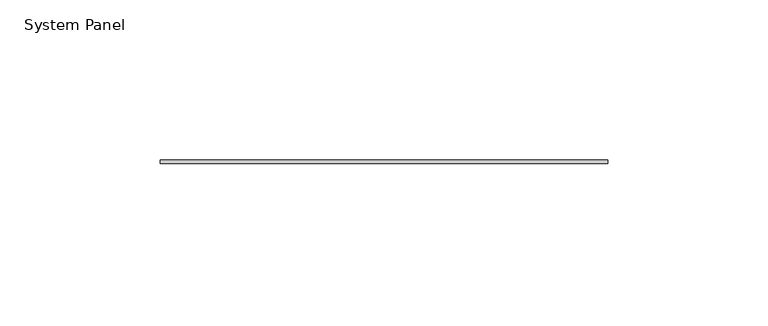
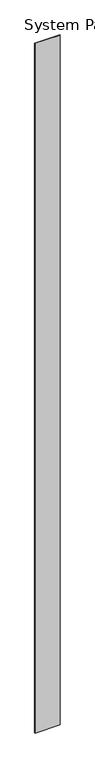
"""IFC4 building model written with IfcOpenShell, lengths in millimetres: plate geometry, System Panel : Stratco_Hiland_Tray."""

from ifc_helpers import new_model, si_unit, origin, origin_with_axes, place, context, project, spatial, polyline, outline, extrude, source, transform, mapped, element, save


def system_panel_6d3ecb9d(model_context):
    return source(origin(), model_context, "Body", "SweptSolid", [
        extrude(outline(polyline([(69.7485582, 2.5), (-69.7485582, 2.5), (-69.7485582, 3.5), (69.7485582, 3.5), (69.7485582, 2.5)])), origin_with_axes(), (0.0, 0.0, 1.0), 4000.0),
    ])


if __name__ == "__main__":
    model = new_model("IFC4")
    model_context = context("Model", 3, world=origin())
    ifc_project = project(units=[si_unit("LENGTHUNIT", "METRE", prefix="MILLI")], contexts=[model_context])
    site = spatial("IfcSite", under=ifc_project)
    building = spatial("IfcBuilding", under=site)
    placement = place(None, origin())
    system_panel_shape = system_panel_6d3ecb9d(model_context)
    element("IfcPlate", 1, ObjectType="System Panel : Stratco_Hiland_Tray", at=placement, inside=building, context=model_context, shape_type="MappedRepresentation", body=[
        mapped(system_panel_shape, transform((0.0, 0.0, 0.0), x_axis=(1.0, 0.0, 0.0), y_axis=(0.0, 1.0, 0.0), z_axis=(0.0, 0.0, 1.0))),
    ])
    save(model, "model.ifc")
